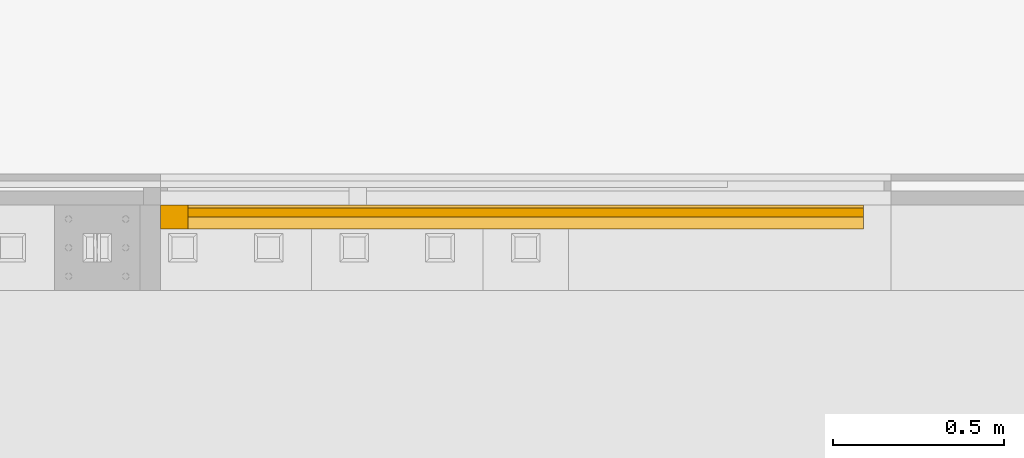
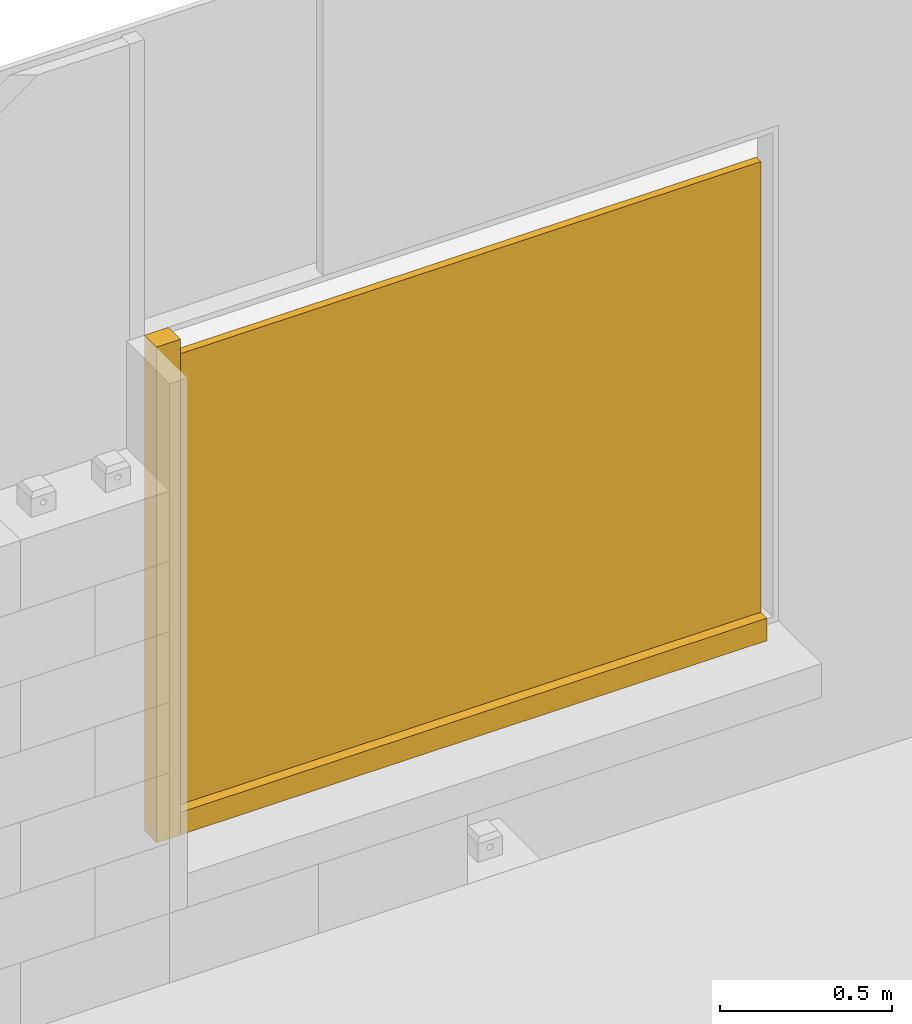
# One storey, part 2 of 3: 3 windows.
"""IFC4 building model written with IfcOpenShell, lengths in centimetres."""

from ifc_helpers import new_model, entity, si_unit, converted_unit, direction, frame, origin, place, context, subcontext, project, spatial, indexed_curve, outline, extrude, source, transform, mapped, material, type_object, type_shapes, element, save


model = new_model("IFC4")

# Units and contexts
model_context = context("Model", 3, precision=0.001, world=origin(), true_north=direction((0.0, 1.0)))
body_context = subcontext(model_context, "Body", "Model", "MODEL_VIEW")
ifc_project = project(units=[si_unit("LENGTHUNIT", "METRE", prefix="CENTI"), si_unit("AREAUNIT", "SQUARE_METRE"), si_unit("VOLUMEUNIT", "CUBIC_METRE"), converted_unit("PLANEANGLEUNIT", "DEGREE", entity("IfcPlaneAngleMeasure", 0.017453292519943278), si_unit("PLANEANGLEUNIT", "RADIAN"), dimensions=[0, 0, 0, 0, 0, 0, 0])], contexts=[model_context])

# Site, building, storey
site_placement = place(None, origin())
site = spatial("IfcSite", under=ifc_project, at=site_placement, Name="Default", CompositionType="ELEMENT")
building_placement = place(site_placement, origin())
building = spatial("IfcBuilding", under=site, at=building_placement, CompositionType="ELEMENT")
storey_placement = place(building_placement, frame((0.0, 0.0, -23.700000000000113)))
storey = spatial("IfcBuildingStorey", under=building, at=storey_placement, Name="L00__ABOVE Slab", CompositionType="ELEMENT", Elevation=-23.700000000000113)

# Windows
ifc_material_1 = material(Name="_WINDOW__Glazing", Category="Unassigned")
window_type_1 = type_object("IfcWindowType", Name="Windows : wdw_s__PANEL__Fixed__wp : Glazed", PartitioningType="NOTDEFINED", PredefinedType="WINDOW", material=ifc_material_1)
shared_shape_1 = source(origin(), body_context, "Body", "SweptSolid", [
    extrude(outline(indexed_curve([(-98.5, -1.3000000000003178), (98.5, -1.299999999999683), (98.5, 1.3000000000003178), (-98.5, 1.299999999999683), (-98.5, -1.3000000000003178)], self_intersect=False)), frame((98.5, 2.200000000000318, 0.0)), (0.0, 0.0, 1.0), 160.00000000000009),
])
type_shapes(window_type_1, [shared_shape_1])
window_1_placement = place(storey_placement, frame((3449.0256942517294, 2588.6164159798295, 70.0), z_axis=(0.0, 0.0, 1.0), x_axis=(-1.0, 0.0, 0.0)))
element("IfcWindow", 1, at=window_1_placement, inside=storey, type_object=window_type_1, material=ifc_material_1, Name="Windows : wdw_s__PANEL__Fixed__wp : Glazed", OverallHeight=7.0000000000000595, OverallWidth=197.0, PartitioningType="NOTDEFINED", PredefinedType="WINDOW", context=body_context, shape_type="MappedRepresentation", body=[
    mapped(shared_shape_1, transform((0.0, 0.0, 0.0), scale=1.0)),
])
ifc_material_2 = material(Name="_WINDOW__Profile__Wood", Category="Miscellaneous")
window_type_2 = type_object("IfcWindowType", Name="Windows : wdw_s__PROFILE__Frame__wp : Wood", PartitioningType="NOTDEFINED", PredefinedType="WINDOW", material=ifc_material_2)
shared_shape_2 = source(origin(), body_context, "Body", "SweptSolid", [
    extrude(outline(indexed_curve([(-4.000000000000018, -3.4999999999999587), (4.000000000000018, -3.4999999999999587), (4.000000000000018, 3.4999999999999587), (-4.000000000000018, 3.4999999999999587), (-4.000000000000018, -3.4999999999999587)], self_intersect=False)), frame((4.0, -3.4999999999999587, 0.0)), (0.0, 0.0, 1.0), 176.0),
])
type_shapes(window_type_2, [shared_shape_2])
window_2_placement = place(storey_placement, frame((3244.025694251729, 2588.6164159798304, 62.0)))
element("IfcWindow", 2, at=window_2_placement, inside=storey, type_object=window_type_2, material=ifc_material_2, Name="Windows : wdw_s__PROFILE__Frame__wp : Wood", OverallHeight=28.355733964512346, OverallWidth=8.000000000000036, PartitioningType="NOTDEFINED", PredefinedType="WINDOW", context=body_context, shape_type="MappedRepresentation", body=[
    mapped(shared_shape_2, transform((0.0, 0.0, 0.0), scale=1.0)),
])
window_type_3 = type_object("IfcWindowType", Name="Windows : wdw_s__PROFILE__Frame__wp : Wood", PartitioningType="NOTDEFINED", PredefinedType="WINDOW", material=ifc_material_2)
shared_shape_3 = source(origin(), body_context, "Body", "SweptSolid", [
    extrude(outline(indexed_curve([(-3.4999999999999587, -4.000000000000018), (3.4999999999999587, -4.000000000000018), (3.4999999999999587, 4.000000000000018), (-3.4999999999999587, 4.000000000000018), (-3.4999999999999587, -4.000000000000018)], self_intersect=False)), frame((4.0, 3.4999999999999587, 0.0), z_axis=(0.0, 0.0, 1.0), x_axis=(0.0, -1.0, 0.0)), (0.0, 0.0, 1.0), 197.0),
])
type_shapes(window_type_3, [shared_shape_3])
window_3_placement = place(storey_placement, frame((3252.0256942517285, 2588.6164159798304, 62.0), z_axis=(1.0, 0.0, 0.0), x_axis=(0.0, 0.0, 1.0)))
element("IfcWindow", 3, at=window_3_placement, inside=storey, type_object=window_type_3, material=ifc_material_2, Name="Windows : wdw_s__PROFILE__Frame__wp : Wood", OverallHeight=28.355733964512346, OverallWidth=8.000000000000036, PartitioningType="NOTDEFINED", PredefinedType="WINDOW", context=body_context, shape_type="MappedRepresentation", body=[
    mapped(shared_shape_3, transform((0.0, 0.0, 0.0), scale=1.0)),
])

save(model, "model.ifc")
